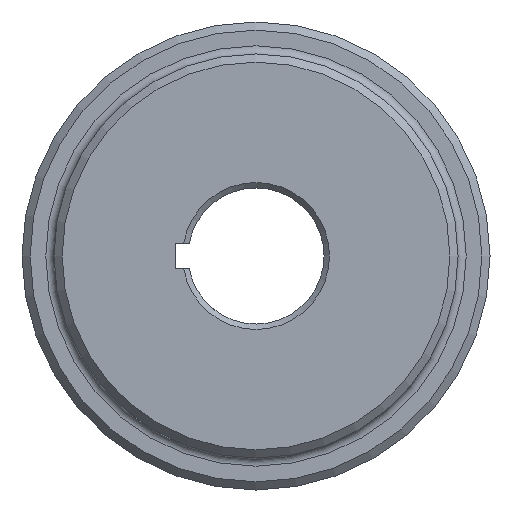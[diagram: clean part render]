
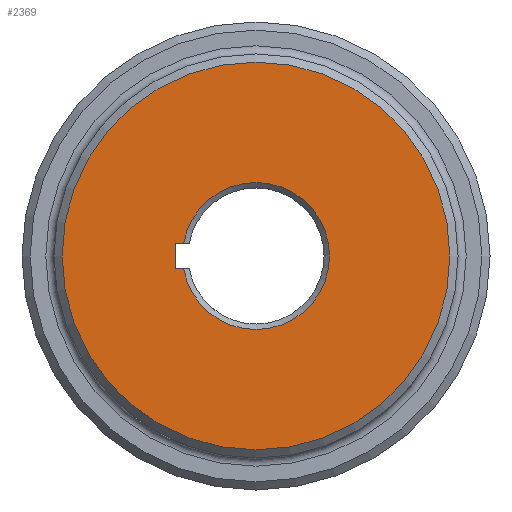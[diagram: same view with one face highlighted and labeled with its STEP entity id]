
A CAD part, left-side view. The second image highlights one B-rep face of the part: STEP entity #2369.
In plain terms, the highlighted planar face has unit normal (-1, 0, 0).
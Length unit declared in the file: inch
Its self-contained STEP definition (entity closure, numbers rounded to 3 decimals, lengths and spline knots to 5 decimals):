
#16 = ORIENTED_EDGE ( 'NONE', *, *, #422, .T. ) ;
#46 = CARTESIAN_POINT ( 'NONE',  ( 0., 0., 0.0935 ) ) ;
#146 = DIRECTION ( 'NONE',  ( 0., 0., -1. ) ) ;
#154 = CARTESIAN_POINT ( 'NONE',  ( 0., 0., 0. ) ) ;
#175 = ORIENTED_EDGE ( 'NONE', *, *, #1319, .T. ) ;
#182 = LINE ( 'NONE', #1363, #2238 ) ;
#194 = DIRECTION ( 'NONE',  ( 1., 0., 0. ) ) ;
#265 = CARTESIAN_POINT ( 'NONE',  ( 0., 0.59085, -0.0935 ) ) ;
#296 = ORIENTED_EDGE ( 'NONE', *, *, #747, .F. ) ;
#298 = VERTEX_POINT ( 'NONE', #1685 ) ;
#330 = EDGE_LOOP ( 'NONE', ( #1072, #16, #296, #1984 ) ) ;
#372 = CIRCLE ( 'NONE', #1831, 1.425 ) ;
#385 = AXIS2_PLACEMENT_3D ( 'NONE', #1896, #1329, #146 ) ;
#422 = EDGE_CURVE ( 'NONE', #298, #2185, #962, .T. ) ;
#530 = DIRECTION ( 'NONE',  ( 0., 0., -1. ) ) ;
#570 = CARTESIAN_POINT ( 'NONE',  ( 0., 0.59085, -0.0935 ) ) ;
#659 = VECTOR ( 'NONE', #1652, 39.37008 ) ;
#692 = CARTESIAN_POINT ( 'NONE',  ( 0., 0., 0. ) ) ;
#721 = DIRECTION ( 'NONE',  ( 0., 1., 0. ) ) ;
#739 = DIRECTION ( 'NONE',  ( 0., -1., 0. ) ) ;
#747 = EDGE_CURVE ( 'NONE', #1399, #2185, #182, .T. ) ;
#754 = FACE_OUTER_BOUND ( 'NONE', #2275, .T. ) ;
#962 = CIRCLE ( 'NONE', #385, 0.54015 ) ;
#1058 = PLANE ( 'NONE',  #2272 ) ;
#1072 = ORIENTED_EDGE ( 'NONE', *, *, #1712, .F. ) ;
#1131 = VERTEX_POINT ( 'NONE', #2042 ) ;
#1256 = CARTESIAN_POINT ( 'NONE',  ( 0., 0., -1.425 ) ) ;
#1319 = EDGE_CURVE ( 'NONE', #1543, #1543, #372, .T. ) ;
#1329 = DIRECTION ( 'NONE',  ( 1., 0., 0. ) ) ;
#1363 = CARTESIAN_POINT ( 'NONE',  ( 0., 0., -0.0935 ) ) ;
#1379 = FACE_BOUND ( 'NONE', #330, .T. ) ;
#1387 = LINE ( 'NONE', #46, #1607 ) ;
#1399 = VERTEX_POINT ( 'NONE', #265 ) ;
#1466 = LINE ( 'NONE', #570, #659 ) ;
#1477 = DIRECTION ( 'NONE',  ( 0., 0., -1. ) ) ;
#1543 = VERTEX_POINT ( 'NONE', #1256 ) ;
#1607 = VECTOR ( 'NONE', #721, 39.37008 ) ;
#1627 = EDGE_CURVE ( 'NONE', #1131, #1399, #1466, .T. ) ;
#1652 = DIRECTION ( 'NONE',  ( 0., 0., -1. ) ) ;
#1685 = CARTESIAN_POINT ( 'NONE',  ( 0., 0.532, 0.0935 ) ) ;
#1712 = EDGE_CURVE ( 'NONE', #298, #1131, #1387, .T. ) ;
#1831 = AXIS2_PLACEMENT_3D ( 'NONE', #692, #2305, #1477 ) ;
#1896 = CARTESIAN_POINT ( 'NONE',  ( 0., 0., 0. ) ) ;
#1966 = CARTESIAN_POINT ( 'NONE',  ( 0., 0.532, -0.0935 ) ) ;
#1984 = ORIENTED_EDGE ( 'NONE', *, *, #1627, .F. ) ;
#2042 = CARTESIAN_POINT ( 'NONE',  ( 0., 0.59085, 0.0935 ) ) ;
#2185 = VERTEX_POINT ( 'NONE', #1966 ) ;
#2238 = VECTOR ( 'NONE', #739, 39.37008 ) ;
#2272 = AXIS2_PLACEMENT_3D ( 'NONE', #154, #194, #530 ) ;
#2275 = EDGE_LOOP ( 'NONE', ( #175 ) ) ;
#2305 = DIRECTION ( 'NONE',  ( -1., 0., 0. ) ) ;
#2369 = ADVANCED_FACE ( 'NONE', ( #754, #1379 ), #1058, .F. ) ;
